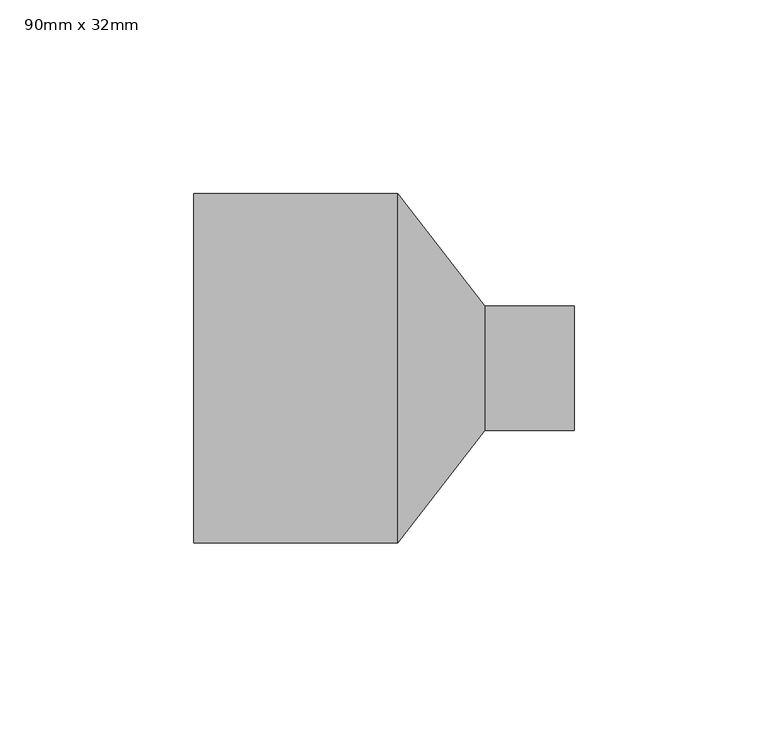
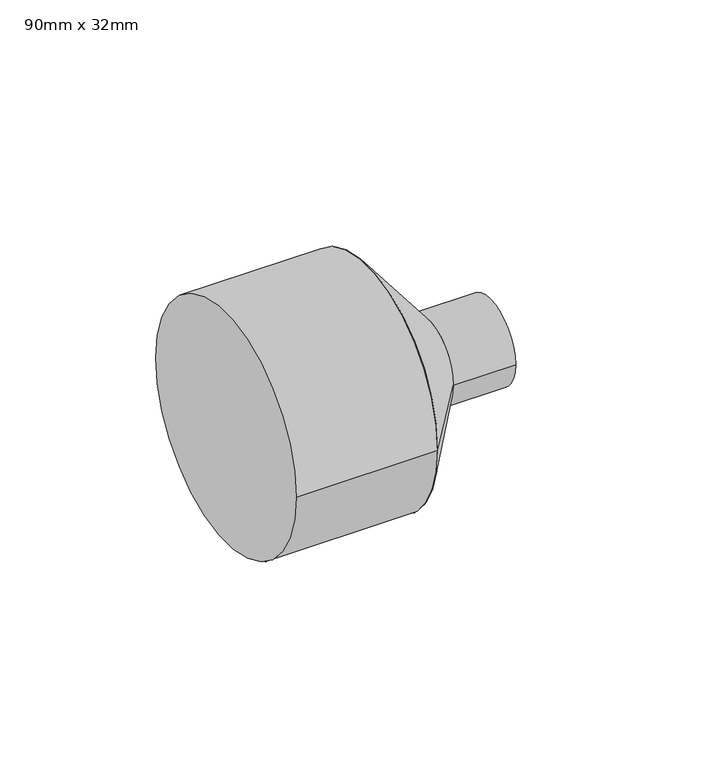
"""IFC4 building model written with IfcOpenShell, lengths in millimetres: pipe fitting geometry, PipeFitting_HTA_CPVC_ReducingBushesLongPattern : 90mm x 32mm."""

from ifc_helpers import new_model, si_unit, point, frame, origin, origin_2d, place, context, project, spatial, polyline, circle_curve, trimmed, segment, composite_curve, outline, extrude, source, transform, mapped, element, save
from ifc_brep_helpers import plane_surface, revolved_surface, advanced_brep


def pipe_fitting_90mm_x_32mm_7b2d976d(model_context):
    return source(origin(), model_context, "Body", "SolidModel", [
        advanced_brep(
        [(75.0, -16.0, 0.0), (75.0, 16.0, 0.0), (52.5, -45.0, 0.0), (52.5, 45.0, 0.0)],
        [
            (0, 1, circle_curve(frame((75.0, 0.0, 0.0), z_axis=(1.0, 0.0, 0.0), x_axis=(0.0, -1.0, 0.0)), 16.0)),
            (1, 0, circle_curve(frame((75.0, 0.0, 0.0), z_axis=(1.0, 0.0, 0.0), x_axis=(0.0, 1.0, 0.0)), 16.0)),
            (2, 3, circle_curve(frame((52.5, 0.0, 0.0), z_axis=(-1.0, 0.0, 0.0), x_axis=(0.0, 1.0, 0.0)), 45.0)),
            (3, 2, circle_curve(frame((52.5, 0.0, 0.0), z_axis=(-1.0, 0.0, 0.0), x_axis=(0.0, -1.0, 0.0)), 45.0)),
            (3, 1),
            (0, 2),
        ],
        [
            plane_surface(frame((75.0, 0.0, 0.0), z_axis=(1.0, 0.0, 0.0), x_axis=(0.0, 0.0, -1.0))),
            plane_surface(frame((52.5, 0.0, 0.0), z_axis=(-1.0, 0.0, 0.0), x_axis=(0.0, 0.0, -1.0))),
            revolved_surface(polyline([(75.0, -15.999999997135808, 0.0), (52.5, -45.0, 0.0)]), (87.4137931, 0.0, 0.0), (-1.0, 0.0, 0.0)),
            revolved_surface(polyline([(75.0, 15.999999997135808, 0.0), (52.5, 45.0, 0.0)]), (87.4137931, 0.0, 0.0), (-1.0, 0.0, 0.0)),
        ],
        [
            (0, [[1, 2]]),
            (1, [[3, 4]]),
            (2, [[-4, 5, -1, 6]]),
            (3, [[-3, -6, -2, -5]]),
        ],
    ),
        extrude(outline(composite_curve([segment(trimmed(circle_curve(origin_2d(), 16.0), [point((-16.0, 0.0))], [point((16.0, 0.0))], False, "CARTESIAN"), True, "CONTINUOUS"), segment(trimmed(circle_curve(origin_2d(), 16.0), [point((16.0, 0.0))], [point((-16.0, 0.0))], False, "CARTESIAN"), True, "CONTINUOUS")], self_intersect=False)), frame((75.0, 0.0, 0.0), z_axis=(1.0, 0.0, 0.0), x_axis=(0.0, 1.0, 0.0)), (0.0, 0.0, 1.0), 23.0),
        extrude(outline(composite_curve([segment(trimmed(circle_curve(origin_2d(), 45.0), [point((-45.0, 0.0))], [point((45.0, 0.0))], False, "CARTESIAN"), True, "CONTINUOUS"), segment(trimmed(circle_curve(origin_2d(), 45.0), [point((45.0, 0.0))], [point((-45.0, 0.0))], False, "CARTESIAN"), True, "CONTINUOUS")], self_intersect=False)), frame((0.0, 0.0, 0.0), z_axis=(1.0, 0.0, 0.0), x_axis=(0.0, 1.0, 0.0)), (0.0, 0.0, 1.0), 52.5),
    ])


if __name__ == "__main__":
    model = new_model("IFC4")
    model_context = context("Model", 3, world=origin())
    ifc_project = project(units=[si_unit("LENGTHUNIT", "METRE", prefix="MILLI")], contexts=[model_context])
    site = spatial("IfcSite", under=ifc_project)
    building = spatial("IfcBuilding", under=site)
    placement = place(None, origin())
    pipe_fitting_90mm_x_32mm_shape = pipe_fitting_90mm_x_32mm_7b2d976d(model_context)
    element("IfcPipeFitting", 1, ObjectType="PipeFitting_HTA_CPVC_ReducingBushesLongPattern : 90mm x 32mm", at=placement, inside=building, context=model_context, shape_type="MappedRepresentation", body=[
        mapped(pipe_fitting_90mm_x_32mm_shape, transform((0.0, 0.0, 0.0), x_axis=(1.0, 0.0, 0.0), y_axis=(0.0, 1.0, 0.0), z_axis=(0.0, 0.0, 1.0))),
    ])
    save(model, "model.ifc")
